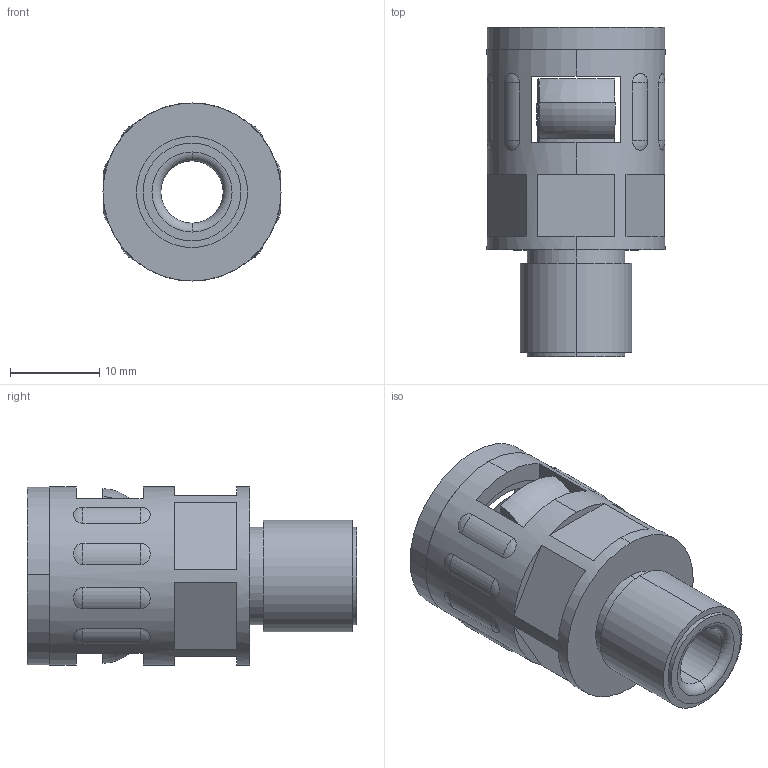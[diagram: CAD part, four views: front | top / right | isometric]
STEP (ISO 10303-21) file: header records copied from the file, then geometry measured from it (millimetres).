
FILE_DESCRIPTION (( 'STEP AP203' ), '1' );
FILE_NAME ('WQG-P07-AD13.0.STEP', '2020-03-12T00:58:50', ( '' ), ( '' ), 'SwSTEP 2.0', 'SolidWorks 2016', '' );
FILE_SCHEMA (( 'CONFIG_CONTROL_DESIGN' ));
Length unit declared in the file: millimetre
Products named in the file (4): WQG-P07-AD13.0; WQG-P07-AD13.0-01; NSK-AD13.0; GFD-AD13.0
Assembly tree (3 placements, depth 2):
  WQG-P07-AD13.0
    WQG-P07-AD13.0-01
    GFD-AD13.0
    NSK-AD13.0
Bounding box: 20 x 37 x 20 mm (x, y, z)
Volume: 3830.4 mm3; surface area: 6630.3 mm2
Topology: 2 solids, 5 shells, 182 faces, 477 edges, 300 vertices
Faces by surface type: plane 59, cone 57, cylinder 30, torus 20, sphere 16
Entity records: 6277 total; most frequent: CARTESIAN_POINT 1498, DIRECTION 967, ORIENTED_EDGE 882, EDGE_CURVE 445, AXIS2_PLACEMENT_3D 401, VERTEX_POINT 284, CIRCLE 212, EDGE_LOOP 209
